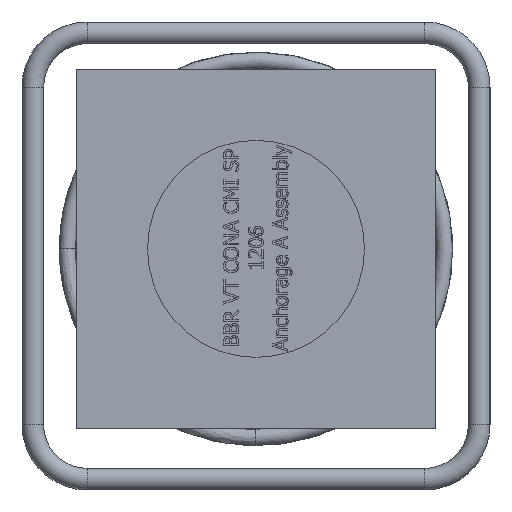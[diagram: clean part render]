
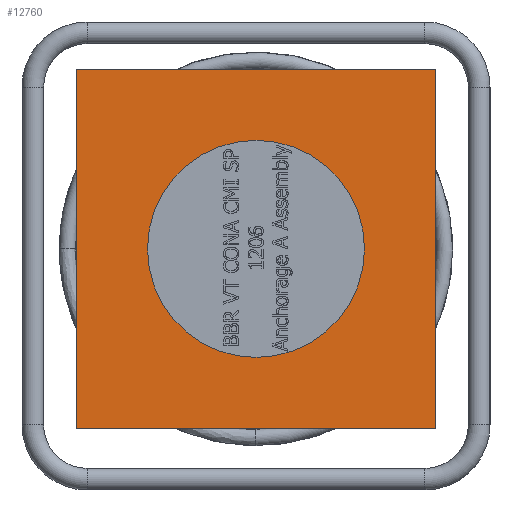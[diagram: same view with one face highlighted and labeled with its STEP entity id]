
A CAD part, left-side view. The second image highlights one B-rep face of the part: STEP entity #12760.
In plain terms, the highlighted planar face has unit normal (-1, 0, 0).
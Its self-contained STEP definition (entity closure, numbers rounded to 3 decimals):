
#1944=LINE('',#25456,#3005);
#1948=LINE('',#25463,#3009);
#1951=LINE('',#25468,#3012);
#1954=LINE('',#25472,#3015);
#3005=VECTOR('',#15129,265.);
#3009=VECTOR('',#15135,265.);
#3012=VECTOR('',#15140,265.);
#3015=VECTOR('',#15145,265.);
#3332=PLANE('',#13208);
#3480=FACE_BOUND('',#4939,.T.);
#4156=FACE_OUTER_BOUND('',#4938,.T.);
#4938=EDGE_LOOP('',(#11341,#11342,#11343,#11344));
#4939=EDGE_LOOP('',(#11345));
#5023=CIRCLE('',#13190,80.);
#6182=VERTEX_POINT('',#22485);
#6196=VERTEX_POINT('',#25454);
#6197=VERTEX_POINT('',#25455);
#6199=VERTEX_POINT('',#25462);
#6200=VERTEX_POINT('',#25467);
#7895=EDGE_CURVE('',#6182,#6182,#5023,.T.);
#7910=EDGE_CURVE('',#6196,#6197,#1944,.T.);
#7914=EDGE_CURVE('',#6197,#6199,#1948,.T.);
#7917=EDGE_CURVE('',#6199,#6200,#1951,.T.);
#7920=EDGE_CURVE('',#6200,#6196,#1954,.T.);
#11341=ORIENTED_EDGE('',*,*,#7920,.T.);
#11342=ORIENTED_EDGE('',*,*,#7910,.T.);
#11343=ORIENTED_EDGE('',*,*,#7914,.T.);
#11344=ORIENTED_EDGE('',*,*,#7917,.T.);
#11345=ORIENTED_EDGE('',*,*,#7895,.T.);
#12760=ADVANCED_FACE('',(#4156,#3480),#3332,.T.);
#13190=AXIS2_PLACEMENT_3D('',#22486,#15093,#15094);
#13208=AXIS2_PLACEMENT_3D('',#25474,#15147,#15148);
#15093=DIRECTION('center_axis',(1.,0.,0.));
#15094=DIRECTION('ref_axis',(0.,0.,
1.));
#15129=DIRECTION('',(0.,0.,-1.));
#15135=DIRECTION('',(0.,-1.,0.));
#15140=DIRECTION('',(0.,0.,1.));
#15145=DIRECTION('',(0.,1.,0.));
#15147=DIRECTION('center_axis',(-1.,0.,0.));
#15148=DIRECTION('ref_axis',(0.,0.,-1.));
#22485=CARTESIAN_POINT('',(-112.151,-80.,5.253));
#22486=CARTESIAN_POINT('Origin',(-112.151,0.,
5.253));
#25454=CARTESIAN_POINT('',(-112.151,132.5,137.753));
#25455=CARTESIAN_POINT('',(-112.151,132.5,-127.247));
#25456=CARTESIAN_POINT('',(-112.151,132.5,137.753));
#25462=CARTESIAN_POINT('',(-112.151,-132.5,-127.247));
#25463=CARTESIAN_POINT('',(-112.151,132.5,-127.247));
#25467=CARTESIAN_POINT('',(-112.151,-132.5,137.753));
#25468=CARTESIAN_POINT('',(-112.151,-132.5,-127.247));
#25472=CARTESIAN_POINT('',(-112.151,-132.5,137.753));
#25474=CARTESIAN_POINT('Origin',(-112.151,0.,
5.253));
